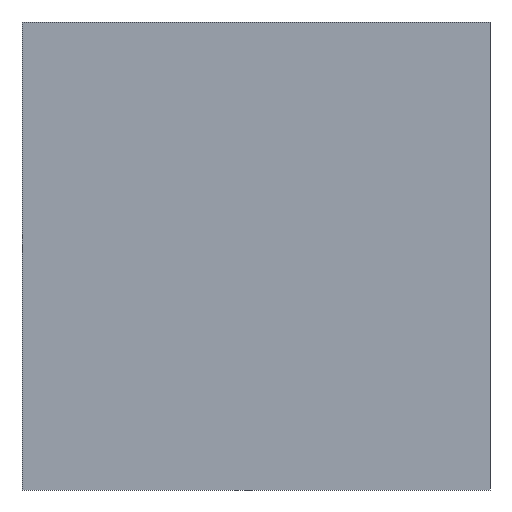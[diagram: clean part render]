
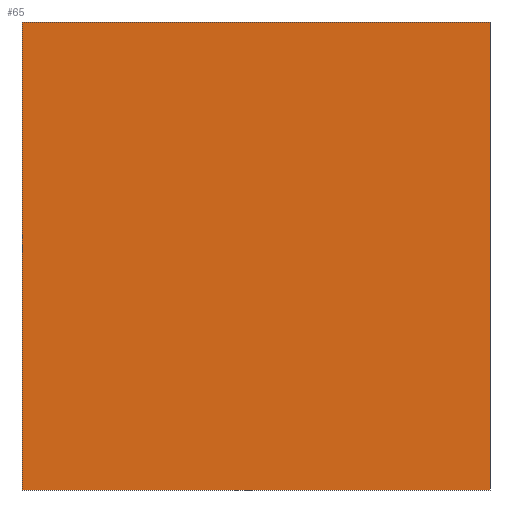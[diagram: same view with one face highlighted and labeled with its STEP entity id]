
A CAD part, front view. The second image highlights one B-rep face of the part: STEP entity #65.
In plain terms, the highlighted planar face has unit normal (0, -1, 0).
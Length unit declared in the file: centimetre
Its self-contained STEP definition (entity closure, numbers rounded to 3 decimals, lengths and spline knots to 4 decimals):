
#1 = CARTESIAN_POINT ( 'NONE',  ( 0., 0., 1000. ) ) ;
#8 = DIRECTION ( 'NONE',  ( 0., 0., -1. ) ) ;
#14 = DIRECTION ( 'NONE',  ( 0., 0., 1. ) ) ;
#56 = DIRECTION ( 'NONE',  ( 1., 0., 0. ) ) ;
#59 = PLANE ( 'NONE',  #292 ) ;
#65 = ADVANCED_FACE ( 'NONE', ( #335 ), #59, .F. ) ;
#70 = DIRECTION ( 'NONE',  ( 0., 0., -1. ) ) ;
#71 = VERTEX_POINT ( 'NONE', #317 ) ;
#80 = VECTOR ( 'NONE', #8, 100. ) ;
#105 = VECTOR ( 'NONE', #167, 100. ) ;
#106 = CARTESIAN_POINT ( 'NONE',  ( 1000., 0., 0. ) ) ;
#121 = ORIENTED_EDGE ( 'NONE', *, *, #154, .F. ) ;
#154 = EDGE_CURVE ( 'NONE', #270, #313, #225, .T. ) ;
#161 = ORIENTED_EDGE ( 'NONE', *, *, #368, .T. ) ;
#167 = DIRECTION ( 'NONE',  ( 1., 0., 0. ) ) ;
#172 = EDGE_CURVE ( 'NONE', #313, #244, #353, .T. ) ;
#186 = EDGE_CURVE ( 'NONE', #270, #71, #374, .T. ) ;
#208 = LINE ( 'NONE', #331, #328 ) ;
#213 = VECTOR ( 'NONE', #70, 100. ) ;
#225 = LINE ( 'NONE', #282, #105 ) ;
#235 = CARTESIAN_POINT ( 'NONE',  ( 1000., 0., 1000. ) ) ;
#244 = VERTEX_POINT ( 'NONE', #106 ) ;
#248 = ORIENTED_EDGE ( 'NONE', *, *, #186, .T. ) ;
#257 = CARTESIAN_POINT ( 'NONE',  ( 1000., 0., 1000. ) ) ;
#269 = DIRECTION ( 'NONE',  ( 0., 1., 0. ) ) ;
#270 = VERTEX_POINT ( 'NONE', #358 ) ;
#273 = ORIENTED_EDGE ( 'NONE', *, *, #172, .F. ) ;
#282 = CARTESIAN_POINT ( 'NONE',  ( 0., 0., 1000. ) ) ;
#292 = AXIS2_PLACEMENT_3D ( 'NONE', #1, #269, #14 ) ;
#305 = EDGE_LOOP ( 'NONE', ( #161, #273, #121, #248 ) ) ;
#313 = VERTEX_POINT ( 'NONE', #235 ) ;
#317 = CARTESIAN_POINT ( 'NONE',  ( 0., 0., 0. ) ) ;
#328 = VECTOR ( 'NONE', #56, 100. ) ;
#331 = CARTESIAN_POINT ( 'NONE',  ( 0., 0., 0. ) ) ;
#335 = FACE_OUTER_BOUND ( 'NONE', #305, .T. ) ;
#353 = LINE ( 'NONE', #257, #80 ) ;
#358 = CARTESIAN_POINT ( 'NONE',  ( 0., 0., 1000. ) ) ;
#368 = EDGE_CURVE ( 'NONE', #71, #244, #208, .T. ) ;
#373 = CARTESIAN_POINT ( 'NONE',  ( 0., 0., 1000. ) ) ;
#374 = LINE ( 'NONE', #373, #213 ) ;
